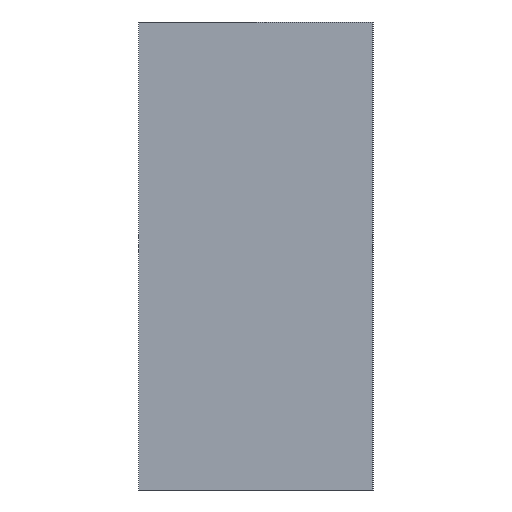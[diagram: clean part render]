
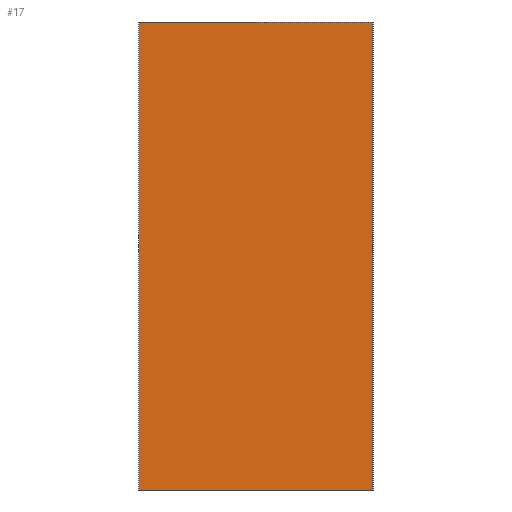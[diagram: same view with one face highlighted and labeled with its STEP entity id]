
A CAD part, left-side view. The second image highlights one B-rep face of the part: STEP entity #17.
In plain terms, the highlighted planar face has unit normal (-1, 0, 0).
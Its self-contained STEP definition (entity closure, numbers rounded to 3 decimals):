
#17 = ADVANCED_FACE('',(#18),#32,.F.);
#18 = FACE_BOUND('',#19,.F.);
#19 = EDGE_LOOP('',(#20,#55,#83,#111));
#20 = ORIENTED_EDGE('',*,*,#21,.F.);
#21 = EDGE_CURVE('',#22,#24,#26,.T.);
#22 = VERTEX_POINT('',#23);
#23 = CARTESIAN_POINT('',(0.,0.,-12.));
#24 = VERTEX_POINT('',#25);
#25 = CARTESIAN_POINT('',(0.,0.,12.));
#26 = SURFACE_CURVE('',#27,(#31,#43),.PCURVE_S1.);
#27 = LINE('',#28,#29);
#28 = CARTESIAN_POINT('',(0.,0.,-12.));
#29 = VECTOR('',#30,1.);
#30 = DIRECTION('',(0.,0.,1.));
#31 = PCURVE('',#32,#37);
#32 = PLANE('',#33);
#33 = AXIS2_PLACEMENT_3D('',#34,#35,#36);
#34 = CARTESIAN_POINT('',(0.,0.,-12.));
#35 = DIRECTION('',(1.,0.,0.));
#36 = DIRECTION('',(0.,0.,1.));
#37 = DEFINITIONAL_REPRESENTATION('',(#38),#42);
#38 = LINE('',#39,#40);
#39 = CARTESIAN_POINT('',(0.,0.));
#40 = VECTOR('',#41,1.);
#41 = DIRECTION('',(1.,0.));
#42 = ( GEOMETRIC_REPRESENTATION_CONTEXT(2) 
PARAMETRIC_REPRESENTATION_CONTEXT() REPRESENTATION_CONTEXT('2D SPACE',''
  ) );
#43 = PCURVE('',#44,#49);
#44 = PLANE('',#45);
#45 = AXIS2_PLACEMENT_3D('',#46,#47,#48);
#46 = CARTESIAN_POINT('',(0.,0.,-12.));
#47 = DIRECTION('',(0.,1.,0.));
#48 = DIRECTION('',(0.,0.,1.));
#49 = DEFINITIONAL_REPRESENTATION('',(#50),#54);
#50 = LINE('',#51,#52);
#51 = CARTESIAN_POINT('',(0.,0.));
#52 = VECTOR('',#53,1.);
#53 = DIRECTION('',(1.,0.));
#54 = ( GEOMETRIC_REPRESENTATION_CONTEXT(2) 
PARAMETRIC_REPRESENTATION_CONTEXT() REPRESENTATION_CONTEXT('2D SPACE',''
  ) );
#55 = ORIENTED_EDGE('',*,*,#56,.T.);
#56 = EDGE_CURVE('',#22,#57,#59,.T.);
#57 = VERTEX_POINT('',#58);
#58 = CARTESIAN_POINT('',(0.,12.,-12.));
#59 = SURFACE_CURVE('',#60,(#64,#71),.PCURVE_S1.);
#60 = LINE('',#61,#62);
#61 = CARTESIAN_POINT('',(0.,0.,-12.));
#62 = VECTOR('',#63,1.);
#63 = DIRECTION('',(0.,1.,0.));
#64 = PCURVE('',#32,#65);
#65 = DEFINITIONAL_REPRESENTATION('',(#66),#70);
#66 = LINE('',#67,#68);
#67 = CARTESIAN_POINT('',(0.,0.));
#68 = VECTOR('',#69,1.);
#69 = DIRECTION('',(0.,-1.));
#70 = ( GEOMETRIC_REPRESENTATION_CONTEXT(2) 
PARAMETRIC_REPRESENTATION_CONTEXT() REPRESENTATION_CONTEXT('2D SPACE',''
  ) );
#71 = PCURVE('',#72,#77);
#72 = PLANE('',#73);
#73 = AXIS2_PLACEMENT_3D('',#74,#75,#76);
#74 = CARTESIAN_POINT('',(0.,0.,-12.));
#75 = DIRECTION('',(0.,0.,1.));
#76 = DIRECTION('',(1.,0.,0.));
#77 = DEFINITIONAL_REPRESENTATION('',(#78),#82);
#78 = LINE('',#79,#80);
#79 = CARTESIAN_POINT('',(0.,0.));
#80 = VECTOR('',#81,1.);
#81 = DIRECTION('',(0.,1.));
#82 = ( GEOMETRIC_REPRESENTATION_CONTEXT(2) 
PARAMETRIC_REPRESENTATION_CONTEXT() REPRESENTATION_CONTEXT('2D SPACE',''
  ) );
#83 = ORIENTED_EDGE('',*,*,#84,.T.);
#84 = EDGE_CURVE('',#57,#85,#87,.T.);
#85 = VERTEX_POINT('',#86);
#86 = CARTESIAN_POINT('',(0.,12.,12.));
#87 = SURFACE_CURVE('',#88,(#92,#99),.PCURVE_S1.);
#88 = LINE('',#89,#90);
#89 = CARTESIAN_POINT('',(0.,12.,-12.));
#90 = VECTOR('',#91,1.);
#91 = DIRECTION('',(0.,0.,1.));
#92 = PCURVE('',#32,#93);
#93 = DEFINITIONAL_REPRESENTATION('',(#94),#98);
#94 = LINE('',#95,#96);
#95 = CARTESIAN_POINT('',(0.,-12.));
#96 = VECTOR('',#97,1.);
#97 = DIRECTION('',(1.,0.));
#98 = ( GEOMETRIC_REPRESENTATION_CONTEXT(2) 
PARAMETRIC_REPRESENTATION_CONTEXT() REPRESENTATION_CONTEXT('2D SPACE',''
  ) );
#99 = PCURVE('',#100,#105);
#100 = PLANE('',#101);
#101 = AXIS2_PLACEMENT_3D('',#102,#103,#104);
#102 = CARTESIAN_POINT('',(0.,12.,-12.));
#103 = DIRECTION('',(0.,1.,0.));
#104 = DIRECTION('',(0.,0.,1.));
#105 = DEFINITIONAL_REPRESENTATION('',(#106),#110);
#106 = LINE('',#107,#108);
#107 = CARTESIAN_POINT('',(0.,0.));
#108 = VECTOR('',#109,1.);
#109 = DIRECTION('',(1.,0.));
#110 = ( GEOMETRIC_REPRESENTATION_CONTEXT(2) 
PARAMETRIC_REPRESENTATION_CONTEXT() REPRESENTATION_CONTEXT('2D SPACE',''
  ) );
#111 = ORIENTED_EDGE('',*,*,#112,.F.);
#112 = EDGE_CURVE('',#24,#85,#113,.T.);
#113 = SURFACE_CURVE('',#114,(#118,#125),.PCURVE_S1.);
#114 = LINE('',#115,#116);
#115 = CARTESIAN_POINT('',(0.,0.,12.));
#116 = VECTOR('',#117,1.);
#117 = DIRECTION('',(0.,1.,0.));
#118 = PCURVE('',#32,#119);
#119 = DEFINITIONAL_REPRESENTATION('',(#120),#124);
#120 = LINE('',#121,#122);
#121 = CARTESIAN_POINT('',(24.,0.));
#122 = VECTOR('',#123,1.);
#123 = DIRECTION('',(0.,-1.));
#124 = ( GEOMETRIC_REPRESENTATION_CONTEXT(2) 
PARAMETRIC_REPRESENTATION_CONTEXT() REPRESENTATION_CONTEXT('2D SPACE',''
  ) );
#125 = PCURVE('',#126,#131);
#126 = PLANE('',#127);
#127 = AXIS2_PLACEMENT_3D('',#128,#129,#130);
#128 = CARTESIAN_POINT('',(0.,0.,12.));
#129 = DIRECTION('',(0.,0.,1.));
#130 = DIRECTION('',(1.,0.,0.));
#131 = DEFINITIONAL_REPRESENTATION('',(#132),#136);
#132 = LINE('',#133,#134);
#133 = CARTESIAN_POINT('',(0.,0.));
#134 = VECTOR('',#135,1.);
#135 = DIRECTION('',(0.,1.));
#136 = ( GEOMETRIC_REPRESENTATION_CONTEXT(2) 
PARAMETRIC_REPRESENTATION_CONTEXT() REPRESENTATION_CONTEXT('2D SPACE',''
  ) );
